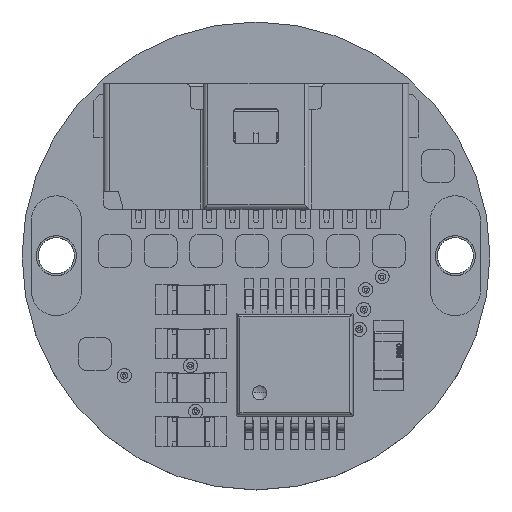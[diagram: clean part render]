
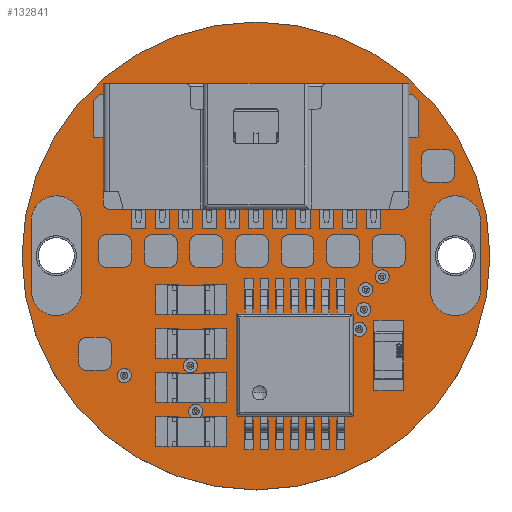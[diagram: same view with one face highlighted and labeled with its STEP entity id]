
A CAD part, top view. The second image highlights one B-rep face of the part: STEP entity #132841.
In plain terms, the highlighted planar face has unit normal (0, 0, 1).
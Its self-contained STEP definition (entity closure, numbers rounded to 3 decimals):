
#4614 = ORIENTED_EDGE ( 'NONE', *, *, #125002, .T. ) ;
#8493 = ORIENTED_EDGE ( 'NONE', *, *, #194485, .F. ) ;
#8886 = EDGE_LOOP ( 'NONE', ( #4614, #60752 ) ) ;
#17795 = CARTESIAN_POINT ( 'NONE',  ( 8.489, -0.01, 0. ) ) ;
#24373 = CARTESIAN_POINT ( 'NONE',  ( -8.504, -0.01, 0. ) ) ;
#25053 = CARTESIAN_POINT ( 'NONE',  ( -0.001, 0., 0. ) ) ;
#27446 = CARTESIAN_POINT ( 'NONE',  ( -9.354, -0.01, 0. ) ) ;
#27598 = ORIENTED_EDGE ( 'NONE', *, *, #85796, .T. ) ;
#30037 = DIRECTION ( 'NONE',  ( 0., 0., -1. ) ) ;
#33557 = DIRECTION ( 'NONE',  ( 0., 0., -1. ) ) ;
#33804 = DIRECTION ( 'NONE',  ( -1., 0., 0. ) ) ;
#37783 = FACE_OUTER_BOUND ( 'NONE', #188627, .T. ) ;
#38831 = CARTESIAN_POINT ( 'NONE',  ( 7.639, -0.01, 0. ) ) ;
#40381 = DIRECTION ( 'NONE',  ( -1., 0., 0. ) ) ;
#41067 = DIRECTION ( 'NONE',  ( -1., 0., 0. ) ) ;
#43875 = AXIS2_PLACEMENT_3D ( 'NONE', #176560, #81817, #192368 ) ;
#44690 = CARTESIAN_POINT ( 'NONE',  ( -9.965, 0., 0. ) ) ;
#45667 = CIRCLE ( 'NONE', #51371, 0.85 ) ;
#51371 = AXIS2_PLACEMENT_3D ( 'NONE', #17795, #128527, #33804 ) ;
#51475 = AXIS2_PLACEMENT_3D ( 'NONE', #124796, #30037, #140669 ) ;
#60752 = ORIENTED_EDGE ( 'NONE', *, *, #121037, .T. ) ;
#62688 = AXIS2_PLACEMENT_3D ( 'NONE', #25053, #135701, #41067 ) ;
#64101 = CIRCLE ( 'NONE', #114728, 0.85 ) ;
#76772 = CIRCLE ( 'NONE', #62688, 9.964 ) ;
#77755 = EDGE_CURVE ( 'NONE', #103049, #107213, #64101, .T. ) ;
#79805 = FACE_BOUND ( 'NONE', #136128, .T. ) ;
#81817 = DIRECTION ( 'NONE',  ( 0., 0., -1. ) ) ;
#82778 = VERTEX_POINT ( 'NONE', #44690 ) ;
#85595 = PLANE ( 'NONE',  #99727 ) ;
#85796 = EDGE_CURVE ( 'NONE', #107213, #103049, #137013, .T. ) ;
#86317 = DIRECTION ( 'NONE',  ( 0., 0., -1. ) ) ;
#88764 = VERTEX_POINT ( 'NONE', #171846 ) ;
#90330 = VERTEX_POINT ( 'NONE', #160411 ) ;
#99727 = AXIS2_PLACEMENT_3D ( 'NONE', #180932, #86317, #196756 ) ;
#103049 = VERTEX_POINT ( 'NONE', #27446 ) ;
#107213 = VERTEX_POINT ( 'NONE', #197605 ) ;
#113596 = ORIENTED_EDGE ( 'NONE', *, *, #189687, .F. ) ;
#114286 = VERTEX_POINT ( 'NONE', #38831 ) ;
#114728 = AXIS2_PLACEMENT_3D ( 'NONE', #24373, #135012, #40381 ) ;
#121037 = EDGE_CURVE ( 'NONE', #88764, #114286, #151681, .T. ) ;
#124796 = CARTESIAN_POINT ( 'NONE',  ( -0.001, 0., 0. ) ) ;
#125002 = EDGE_CURVE ( 'NONE', #114286, #88764, #45667, .T. ) ;
#128272 = CARTESIAN_POINT ( 'NONE',  ( -8.504, -0.01, 0. ) ) ;
#128527 = DIRECTION ( 'NONE',  ( 0., 0., -1. ) ) ;
#129655 = ORIENTED_EDGE ( 'NONE', *, *, #77755, .T. ) ;
#132841 = ADVANCED_FACE ( 'NONE', ( #163963, #79805, #37783 ), #85595, .F. ) ;
#135012 = DIRECTION ( 'NONE',  ( 0., 0., -1. ) ) ;
#135701 = DIRECTION ( 'NONE',  ( 0., 0., -1. ) ) ;
#136128 = EDGE_LOOP ( 'NONE', ( #129655, #27598 ) ) ;
#137013 = CIRCLE ( 'NONE', #154928, 0.85 ) ;
#138121 = CIRCLE ( 'NONE', #51475, 9.964 ) ;
#140669 = DIRECTION ( 'NONE',  ( -1., 0., 0. ) ) ;
#144162 = DIRECTION ( 'NONE',  ( -1., 0., 0. ) ) ;
#151681 = CIRCLE ( 'NONE', #43875, 0.85 ) ;
#154928 = AXIS2_PLACEMENT_3D ( 'NONE', #128272, #33557, #144162 ) ;
#160411 = CARTESIAN_POINT ( 'NONE',  ( 9.963, 0., 0. ) ) ;
#163963 = FACE_BOUND ( 'NONE', #8886, .T. ) ;
#171846 = CARTESIAN_POINT ( 'NONE',  ( 9.339, -0.01, 0. ) ) ;
#176560 = CARTESIAN_POINT ( 'NONE',  ( 8.489, -0.01, 0. ) ) ;
#180932 = CARTESIAN_POINT ( 'NONE',  ( 9.963, 0., 0. ) ) ;
#188627 = EDGE_LOOP ( 'NONE', ( #8493, #113596 ) ) ;
#189687 = EDGE_CURVE ( 'NONE', #90330, #82778, #138121, .T. ) ;
#192368 = DIRECTION ( 'NONE',  ( -1., 0., 0. ) ) ;
#194485 = EDGE_CURVE ( 'NONE', #82778, #90330, #76772, .T. ) ;
#196756 = DIRECTION ( 'NONE',  ( -1., 0., 0. ) ) ;
#197605 = CARTESIAN_POINT ( 'NONE',  ( -7.654, -0.01, 0. ) ) ;
